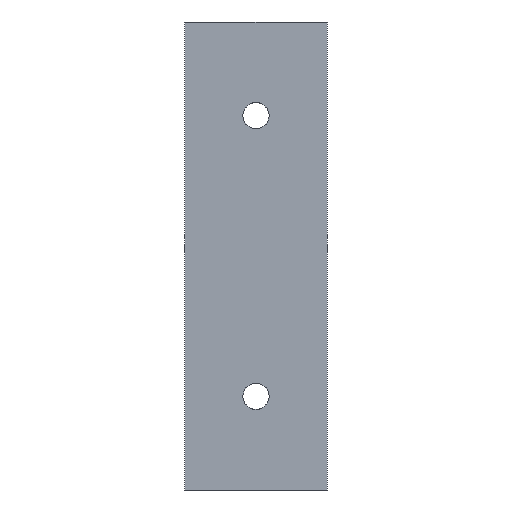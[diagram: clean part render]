
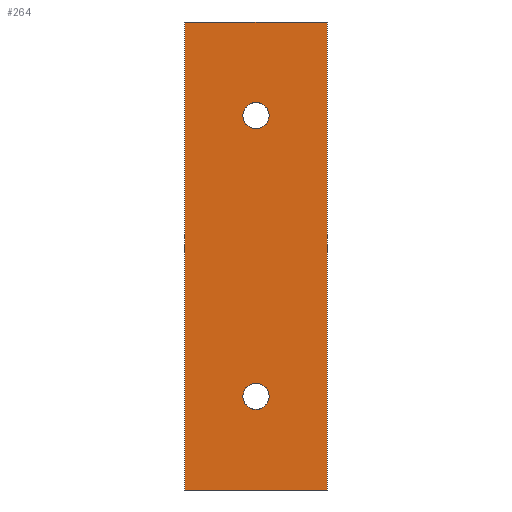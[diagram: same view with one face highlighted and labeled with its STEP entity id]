
A CAD part, front view. The second image highlights one B-rep face of the part: STEP entity #264.
In plain terms, the highlighted face is a extrusion surface.
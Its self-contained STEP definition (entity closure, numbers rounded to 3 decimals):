
#141=CARTESIAN_POINT('Control Point',(-19.,-5.,62.5)) ;
#142=CARTESIAN_POINT('Control Point',(-19.,-5.,-62.5)) ;
#146=CARTESIAN_POINT('Line Origine',(0.,-5.,-62.5)) ;
#150=CARTESIAN_POINT('Vertex',(-19.,-5.,-62.5)) ;
#152=CARTESIAN_POINT('Vertex',(19.,-5.,-62.5)) ;
#155=CARTESIAN_POINT('Line Origine',(19.,-5.,0.)) ;
#159=CARTESIAN_POINT('Vertex',(19.,-5.,62.5)) ;
#162=CARTESIAN_POINT('Line Origine',(0.,-5.,62.5)) ;
#166=CARTESIAN_POINT('Vertex',(-19.,-5.,62.5)) ;
#169=CARTESIAN_POINT('Line Origine',(-19.,-5.,0.)) ;
#181=CARTESIAN_POINT('Control Point',(3.5,-5.,37.5)) ;
#182=CARTESIAN_POINT('Control Point',(3.5,-5.,36.767)) ;
#183=CARTESIAN_POINT('Control Point',(3.308,-5.,36.034)) ;
#184=CARTESIAN_POINT('Control Point',(2.923,-5.,35.368)) ;
#185=CARTESIAN_POINT('Control Point',(2.115,-5.,34.569)) ;
#186=CARTESIAN_POINT('Control Point',(1.09,-5.,34.144)) ;
#187=CARTESIAN_POINT('Control Point',(0.732,-5.,34.048)) ;
#188=CARTESIAN_POINT('Control Point',(-0.001,-5.,33.952)) ;
#189=CARTESIAN_POINT('Control Point',(-0.734,-5.,34.048)) ;
#190=CARTESIAN_POINT('Control Point',(-1.093,-5.,34.144)) ;
#191=CARTESIAN_POINT('Control Point',(-2.116,-5.,34.57)) ;
#192=CARTESIAN_POINT('Control Point',(-2.924,-5.,35.369)) ;
#193=CARTESIAN_POINT('Control Point',(-3.308,-5.,36.035)) ;
#194=CARTESIAN_POINT('Control Point',(-3.5,-5.,36.767)) ;
#195=CARTESIAN_POINT('Control Point',(-3.5,-5.,37.5)) ;
#196=CARTESIAN_POINT('Vertex',(3.5,-5.,37.5)) ;
#198=CARTESIAN_POINT('Vertex',(-3.5,-5.,37.5)) ;
#202=CARTESIAN_POINT('Control Point',(-3.5,-5.,37.5)) ;
#203=CARTESIAN_POINT('Control Point',(-3.5,-5.,37.867)) ;
#204=CARTESIAN_POINT('Control Point',(-3.452,-5.,38.233)) ;
#205=CARTESIAN_POINT('Control Point',(-3.356,-5.,38.591)) ;
#206=CARTESIAN_POINT('Control Point',(-2.931,-5.,39.616)) ;
#207=CARTESIAN_POINT('Control Point',(-2.131,-5.,40.424)) ;
#208=CARTESIAN_POINT('Control Point',(-1.465,-5.,40.809)) ;
#209=CARTESIAN_POINT('Control Point',(-0.365,-5.,41.096)) ;
#210=CARTESIAN_POINT('Control Point',(0.734,-5.,40.952)) ;
#211=CARTESIAN_POINT('Control Point',(1.093,-5.,40.856)) ;
#212=CARTESIAN_POINT('Control Point',(2.116,-5.,40.43)) ;
#213=CARTESIAN_POINT('Control Point',(2.924,-5.,39.631)) ;
#214=CARTESIAN_POINT('Control Point',(3.308,-5.,38.965)) ;
#215=CARTESIAN_POINT('Control Point',(3.5,-5.,38.233)) ;
#216=CARTESIAN_POINT('Control Point',(3.5,-5.,37.5)) ;
#223=CARTESIAN_POINT('Control Point',(3.5,-5.,-37.5)) ;
#224=CARTESIAN_POINT('Control Point',(3.5,-5.,-38.233)) ;
#225=CARTESIAN_POINT('Control Point',(3.308,-5.,-38.966)) ;
#226=CARTESIAN_POINT('Control Point',(2.923,-5.,-39.632)) ;
#227=CARTESIAN_POINT('Control Point',(2.115,-5.,-40.431)) ;
#228=CARTESIAN_POINT('Control Point',(1.09,-5.,-40.856)) ;
#229=CARTESIAN_POINT('Control Point',(0.732,-5.,-40.952)) ;
#230=CARTESIAN_POINT('Control Point',(-0.001,-5.,-41.048)) ;
#231=CARTESIAN_POINT('Control Point',(-0.734,-5.,-40.952)) ;
#232=CARTESIAN_POINT('Control Point',(-1.093,-5.,-40.856)) ;
#233=CARTESIAN_POINT('Control Point',(-2.116,-5.,-40.43)) ;
#234=CARTESIAN_POINT('Control Point',(-2.924,-5.,-39.631)) ;
#235=CARTESIAN_POINT('Control Point',(-3.308,-5.,-38.965)) ;
#236=CARTESIAN_POINT('Control Point',(-3.5,-5.,-38.233)) ;
#237=CARTESIAN_POINT('Control Point',(-3.5,-5.,-37.5)) ;
#238=CARTESIAN_POINT('Vertex',(3.5,-5.,-37.5)) ;
#240=CARTESIAN_POINT('Vertex',(-3.5,-5.,-37.5)) ;
#244=CARTESIAN_POINT('Control Point',(-3.5,-5.,-37.5)) ;
#245=CARTESIAN_POINT('Control Point',(-3.5,-5.,-37.133)) ;
#246=CARTESIAN_POINT('Control Point',(-3.452,-5.,-36.767)) ;
#247=CARTESIAN_POINT('Control Point',(-3.356,-5.,-36.409)) ;
#248=CARTESIAN_POINT('Control Point',(-2.931,-5.,-35.384)) ;
#249=CARTESIAN_POINT('Control Point',(-2.131,-5.,-34.576)) ;
#250=CARTESIAN_POINT('Control Point',(-1.465,-5.,-34.191)) ;
#251=CARTESIAN_POINT('Control Point',(-0.365,-5.,-33.904)) ;
#252=CARTESIAN_POINT('Control Point',(0.734,-5.,-34.048)) ;
#253=CARTESIAN_POINT('Control Point',(1.093,-5.,-34.144)) ;
#254=CARTESIAN_POINT('Control Point',(2.116,-5.,-34.57)) ;
#255=CARTESIAN_POINT('Control Point',(2.924,-5.,-35.369)) ;
#256=CARTESIAN_POINT('Control Point',(3.308,-5.,-36.035)) ;
#257=CARTESIAN_POINT('Control Point',(3.5,-5.,-36.767)) ;
#258=CARTESIAN_POINT('Control Point',(3.5,-5.,-37.5)) ;
#143=DIRECTION('Vector Direction',(1.,0.,0.)) ;
#147=DIRECTION('Vector Direction',(1.,0.,0.)) ;
#156=DIRECTION('Vector Direction',(0.,0.,-1.)) ;
#163=DIRECTION('Vector Direction',(1.,0.,0.)) ;
#170=DIRECTION('Vector Direction',(0.,0.,-1.)) ;
#175=ORIENTED_EDGE('',*,*,#154,.T.) ;
#176=ORIENTED_EDGE('',*,*,#161,.T.) ;
#177=ORIENTED_EDGE('',*,*,#168,.T.) ;
#178=ORIENTED_EDGE('',*,*,#173,.T.) ;
#219=ORIENTED_EDGE('',*,*,#200,.T.) ;
#220=ORIENTED_EDGE('',*,*,#217,.T.) ;
#261=ORIENTED_EDGE('',*,*,#242,.T.) ;
#262=ORIENTED_EDGE('',*,*,#259,.T.) ;
#221=FACE_BOUND('',#218,.T.) ;
#263=FACE_BOUND('',#260,.T.) ;
#144=VECTOR('Extrusion Surface Vector',#143,1.) ;
#148=VECTOR('Line Direction',#147,1.) ;
#157=VECTOR('Line Direction',#156,1.) ;
#164=VECTOR('Line Direction',#163,1.) ;
#171=VECTOR('Line Direction',#170,1.) ;
#264=ADVANCED_FACE('Superficie.3',(#179,#221,#263),#145,.T.) ;
#140=B_SPLINE_CURVE_WITH_KNOTS('',1,(#141,#142),.UNSPECIFIED.,.F.,.U.,(2,2),(-62.5,62.5),.UNSPECIFIED.) ;
#180=B_SPLINE_CURVE_WITH_KNOTS('',5,(#181,#182,#183,#184,#185,#186,#187,#188,#189,#190,#191,#192,#193,#194,#195),.UNSPECIFIED.,.F.,.U.,(6,3,3,3,6),(0.,5.185,7.777,10.369,15.55),.UNSPECIFIED.) ;
#201=B_SPLINE_CURVE_WITH_KNOTS('',5,(#202,#203,#204,#205,#206,#207,#208,#209,#210,#211,#212,#213,#214,#215,#216),.UNSPECIFIED.,.F.,.U.,(6,3,3,3,6),(0.,2.592,7.777,10.369,15.55),.UNSPECIFIED.) ;
#222=B_SPLINE_CURVE_WITH_KNOTS('',5,(#223,#224,#225,#226,#227,#228,#229,#230,#231,#232,#233,#234,#235,#236,#237),.UNSPECIFIED.,.F.,.U.,(6,3,3,3,6),(0.,5.185,7.777,10.369,15.55),.UNSPECIFIED.) ;
#243=B_SPLINE_CURVE_WITH_KNOTS('',5,(#244,#245,#246,#247,#248,#249,#250,#251,#252,#253,#254,#255,#256,#257,#258),.UNSPECIFIED.,.F.,.U.,(6,3,3,3,6),(0.,2.592,7.777,10.369,15.55),.UNSPECIFIED.) ;
#154=EDGE_CURVE('',#151,#153,#149,.T.) ;
#161=EDGE_CURVE('',#153,#160,#158,.F.) ;
#168=EDGE_CURVE('',#160,#167,#165,.F.) ;
#173=EDGE_CURVE('',#167,#151,#172,.T.) ;
#200=EDGE_CURVE('',#197,#199,#180,.T.) ;
#217=EDGE_CURVE('',#199,#197,#201,.T.) ;
#242=EDGE_CURVE('',#239,#241,#222,.T.) ;
#259=EDGE_CURVE('',#241,#239,#243,.T.) ;
#174=EDGE_LOOP('',(#175,#176,#177,#178)) ;
#218=EDGE_LOOP('',(#219,#220)) ;
#260=EDGE_LOOP('',(#261,#262)) ;
#179=FACE_OUTER_BOUND('',#174,.T.) ;
#149=LINE('Line',#146,#148) ;
#158=LINE('Line',#155,#157) ;
#165=LINE('Line',#162,#164) ;
#172=LINE('Line',#169,#171) ;
#145=SURFACE_OF_LINEAR_EXTRUSION('generated tabulated cylinder',#140,#144) ;
#151=VERTEX_POINT('',#150) ;
#153=VERTEX_POINT('',#152) ;
#160=VERTEX_POINT('',#159) ;
#167=VERTEX_POINT('',#166) ;
#197=VERTEX_POINT('',#196) ;
#199=VERTEX_POINT('',#198) ;
#239=VERTEX_POINT('',#238) ;
#241=VERTEX_POINT('',#240) ;
